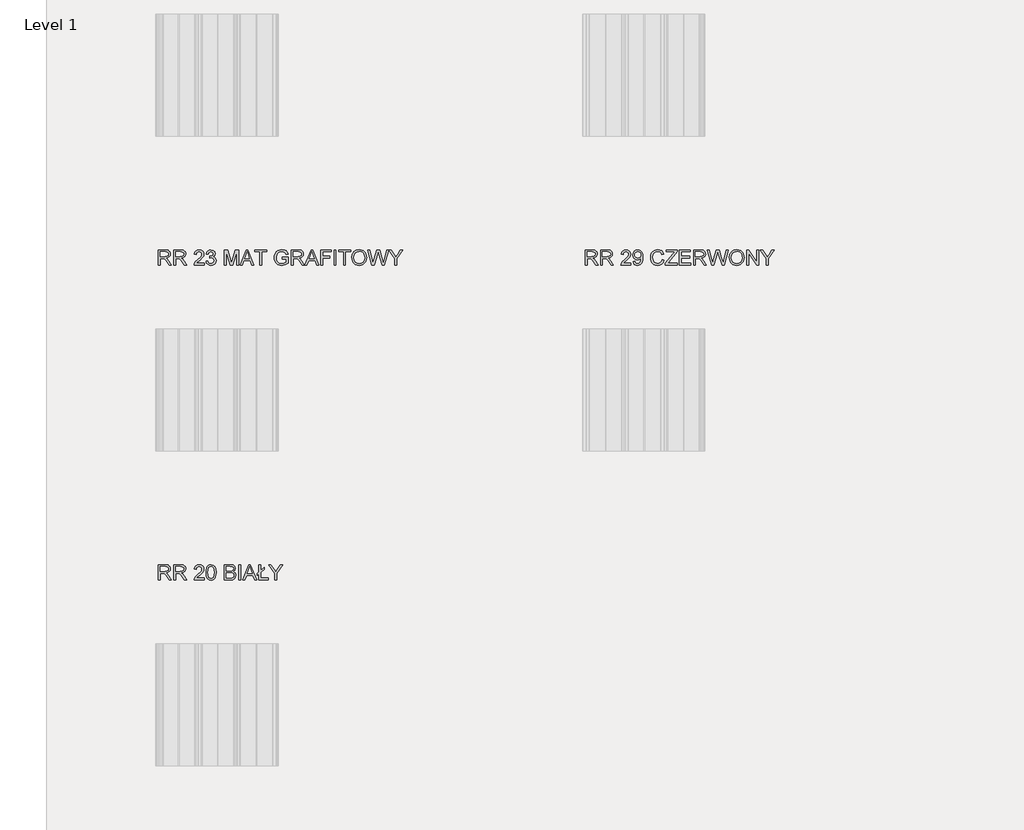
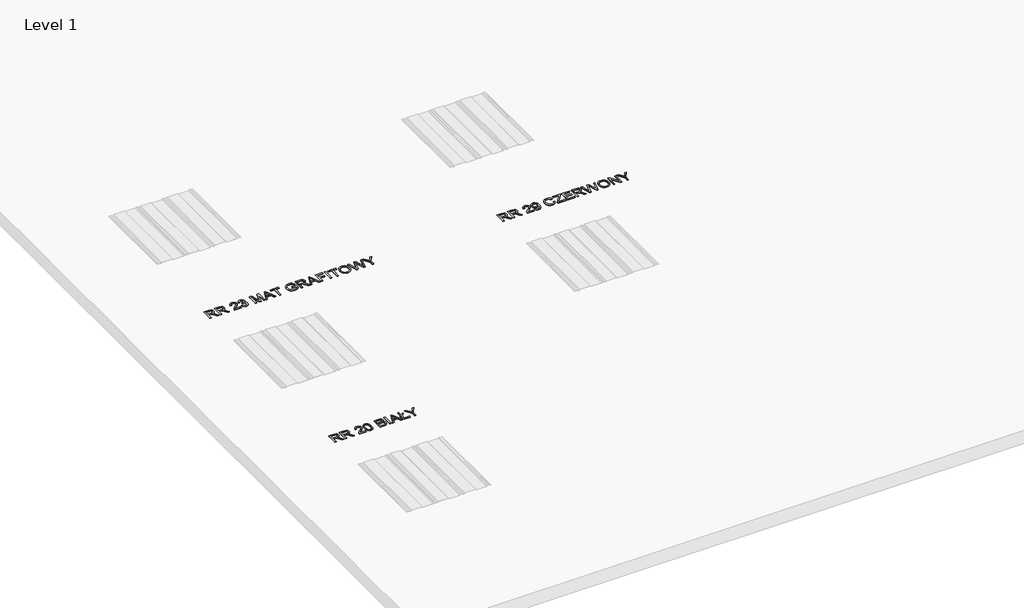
# One storey, part 5 of 9: 3 proxies.
"""IFC4 building model written with IfcOpenShell, lengths in millimetres."""

from ifc_helpers import new_model, si_unit, frame, origin, place, context, project, spatial, polyline, outline, extrude, element, save

model = new_model("IFC4")

# Units and contexts
model_context = context("Model", 3, world=origin())
ifc_project = project(units=[si_unit("LENGTHUNIT", "METRE", prefix="MILLI")], contexts=[model_context])

# Site, building, storey
site = spatial("IfcSite", under=ifc_project)
building = spatial("IfcBuilding", under=site)
storey = spatial("IfcBuildingStorey", under=building, Name="Level 1", Elevation=0.0)

# Proxies
placement = place(None, origin())
element("IfcBuildingElementProxy", 1, Name="150", ObjectType="150", at=placement, inside=storey, context=model_context, shape_type="SweptSolid", body=[
    extrude(outline(polyline([(-8736.4118342, -7835.6514112), (-8736.4118342, -7684.966946), (-8671.4806621, -7684.966946), (-8641.3327325, -7689.032042), (-8632.0529092, -7694.6606365), (-8624.8516192, -7703.416228), (-8620.2301016, -7714.2733454), (-8618.6895957, -7726.2065176), (-8621.2417771, -7741.0505561), (-8628.8983211, -7753.3562089), (-8641.8891541, -7762.3785148), (-8660.4442022, -7767.3725129), (-8649.7388361, -7775.4291286), (-8634.4717333, -7794.8165097), (-8609.3453931, -7835.6514112), (-8631.2343718, -7835.6514112), (-8650.8424821, -7804.4182298), (-8665.0059389, -7783.7432617), (-8674.9571469, -7773.9759947), (-8683.9150735, -7770.3891452), (-8694.8411687, -7769.7269577), (-8717.576276, -7769.7269577), (-8717.576276, -7835.6514112), (-8736.4118342, -7835.6514112)]), holes=[polyline([(-8717.576276, -7750.8913995), (-8675.4169994, -7750.8913995), (-8653.9142968, -7748.224255), (-8641.7006145, -7739.6893927), (-8637.5251539, -7726.9054934), (-8639.5163152, -7717.7176406), (-8645.4897991, -7710.3140154), (-8655.7675023, -7705.4303819), (-8670.6713217, -7703.8025041), (-8717.576276, -7703.8025041), (-8717.576276, -7750.8913995)])]), frame((0.0, 0.0, 600.0), z_axis=(0.0, 0.0, 1.0), x_axis=(1.0, 0.0, 0.0)), (0.0, 0.0, 1.0), 10.0),
    extrude(outline(polyline([(-8585.727369, -7835.6514112), (-8585.727369, -7684.966946), (-8520.7961968, -7684.966946), (-8490.6482673, -7689.032042), (-8481.368444, -7694.6606365), (-8474.1671539, -7703.416228), (-8469.5456364, -7714.2733454), (-8468.0051305, -7726.2065176), (-8470.5573119, -7741.0505561), (-8478.2138559, -7753.3562089), (-8491.2046888, -7762.3785148), (-8509.759737, -7767.3725129), (-8499.0543709, -7775.4291286), (-8483.7872681, -7794.8165097), (-8458.6609278, -7835.6514112), (-8480.5499066, -7835.6514112), (-8500.1580169, -7804.4182298), (-8514.3214737, -7783.7432617), (-8524.2726817, -7773.9759947), (-8533.2306083, -7770.3891452), (-8544.1567035, -7769.7269577), (-8566.8918108, -7769.7269577), (-8566.8918108, -7835.6514112), (-8585.727369, -7835.6514112)]), holes=[polyline([(-8566.8918108, -7750.8913995), (-8524.7325342, -7750.8913995), (-8503.2298316, -7748.224255), (-8491.0161493, -7739.6893927), (-8486.8406887, -7726.9054934), (-8488.83185, -7717.7176406), (-8494.8053339, -7710.3140154), (-8505.0830371, -7705.4303819), (-8519.9868564, -7703.8025041), (-8566.8918108, -7703.8025041), (-8566.8918108, -7750.8913995)])]), frame((0.0, 0.0, 600.0), z_axis=(0.0, 0.0, 1.0), x_axis=(1.0, 0.0, 0.0)), (0.0, 0.0, 1.0), 10.0),
    extrude(outline(polyline([(-8286.7128833, -7816.815853), (-8286.7128833, -7835.6514112), (-8385.5995636, -7835.6514112), (-8383.5762126, -7822.6651768), (-8372.1166885, -7802.6707903), (-8348.5170585, -7780.8369939), (-8316.0146842, -7749.4566597), (-8309.9308357, -7738.6409291), (-8307.9028862, -7728.119504), (-8309.8204711, -7718.6879293), (-8315.5732258, -7710.8474443), (-8324.4161893, -7705.5637392), (-8335.6044005, -7703.8025041), (-8347.3536317, -7705.5223524), (-8356.4817037, -7710.6818974), (-8362.3724141, -7718.8764689), (-8364.4095607, -7729.7013966), (-8383.2451188, -7727.3469518), (-8378.6787836, -7709.127596), (-8368.8057505, -7695.8194648), (-8354.1410545, -7687.6800757), (-8335.1997303, -7684.966946), (-8316.1204503, -7687.9835783), (-8301.4833454, -7697.0334754), (-8292.1713324, -7710.5531387), (-8289.0673281, -7726.9790698), (-8292.4150542, -7744.8397407), (-8303.5434846, -7763.3074168), (-8330.5276289, -7789.1143388), (-8352.1958784, -7807.2325271), (-8360.6939525, -7816.815853), (-8286.7128833, -7816.815853)])), frame((0.0, 0.0, 600.0), z_axis=(0.0, 0.0, 1.0), x_axis=(1.0, 0.0, 0.0)), (0.0, 0.0, 1.0), 10.0),
    extrude(outline(polyline([(-8267.8773251, -7761.5231892), (-8266.4931691, -7737.4039259), (-8262.3407011, -7718.168296), (-8255.4613078, -7703.5219941), (-8245.8963759, -7693.1707145), (-8233.5769276, -7687.0178881), (-8218.433985, -7684.966946), (-8196.4346417, -7689.8229883), (-8181.2411153, -7703.8208982), (-8172.4119474, -7726.1145471), (-8168.9906448, -7761.5231892), (-8170.3610053, -7785.5044967), (-8174.4720866, -7804.6941413), (-8181.3100932, -7819.3542388), (-8190.8612295, -7829.7469052), (-8203.2082689, -7835.9411183), (-8218.433985, -7838.005856), (-8238.0053071, -7834.4190065), (-8252.8677397, -7823.6584581), (-8264.1249288, -7798.1734329), (-8267.8773251, -7761.5231892)]), holes=[polyline([(-8249.041767, -7761.486401), (-8246.834475, -7791.1146971), (-8240.2125991, -7808.2625966), (-8230.3533616, -7816.4433725), (-8218.433985, -7819.1702978), (-8206.5146083, -7816.4341755), (-8196.6553709, -7808.2258084), (-8190.033495, -7791.0687119), (-8187.826203, -7761.486401), (-8189.9599186, -7732.5248909), (-8196.3610653, -7715.2436342), (-8206.2019087, -7706.6627866), (-8218.6547142, -7703.8025041), (-8230.4453321, -7706.3224958), (-8239.9182935, -7713.8824708), (-8246.7608986, -7732.2397823), (-8249.041767, -7761.486401)])]), frame((0.0, 0.0, 600.0), z_axis=(0.0, 0.0, 1.0), x_axis=(1.0, 0.0, 0.0)), (0.0, 0.0, 1.0), 10.0),
    extrude(outline(polyline([(-8086.5850779, -7835.6514112), (-8086.5850779, -7684.966946), (-8029.0851221, -7684.966946), (-8000.9237553, -7689.399924), (-7991.459991, -7695.02392), (-7984.2954892, -7703.0299519), (-7978.2806185, -7722.3069685), (-7983.338996, -7739.9101219), (-7998.6244929, -7753.2458443), (-7987.9513165, -7758.8192565), (-7980.0648462, -7767.2989365), (-7975.1950083, -7778.1238642), (-7973.571729, -7790.7330196), (-7978.004707, -7810.9849234), (-7988.9859846, -7825.4058976), (-8005.3751275, -7833.0578431), (-8029.5265805, -7835.6514112), (-8086.5850779, -7835.6514112)]), holes=[polyline([(-8067.7495198, -7746.18251), (-8033.3525532, -7746.18251), (-8013.2661963, -7744.5638292), (-8001.1812727, -7737.5924654), (-7997.1161767, -7725.3236008), (-8000.9053612, -7713.0363422), (-8011.7578801, -7705.7706728), (-8035.9645154, -7703.8025041), (-8067.7495198, -7703.8025041), (-8067.7495198, -7746.18251)]), polyline([(-8067.7495198, -7816.815853), (-8029.1219103, -7816.815853), (-8015.1423945, -7816.080089), (-8003.3149883, -7811.9782048), (-7995.4791018, -7803.6088894), (-7992.4072872, -7790.9169606), (-7996.0125307, -7776.2752572), (-8007.6927841, -7767.5380598), (-8030.9613203, -7765.0180681), (-8067.7495198, -7765.0180681), (-8067.7495198, -7816.815853)])]), frame((0.0, 0.0, 600.0), z_axis=(0.0, 0.0, 1.0), x_axis=(1.0, 0.0, 0.0)), (0.0, 0.0, 1.0), 10.0),
    extrude(outline(polyline([(-7945.3183918, -7835.6514112), (-7945.3183918, -7684.966946), (-7926.4828336, -7684.966946), (-7926.4828336, -7835.6514112), (-7945.3183918, -7835.6514112)])), frame((0.0, 0.0, 600.0), z_axis=(0.0, 0.0, 1.0), x_axis=(1.0, 0.0, 0.0)), (0.0, 0.0, 1.0), 10.0),
    extrude(outline(polyline([(-7906.3229003, -7835.6514112), (-7846.1741941, -7684.966946), (-7830.1345391, -7684.966946), (-7770.0226211, -7835.6514112), (-7789.925037, -7835.6514112), (-7807.1419144, -7788.5625158), (-7869.2403952, -7788.5625158), (-7886.4572725, -7835.6514112), (-7906.3229003, -7835.6514112)]), holes=[polyline([(-7862.3242137, -7769.7269577), (-7814.0213077, -7769.7269577), (-7827.6329415, -7732.6812407), (-7838.1911548, -7703.8025041), (-7847.5721457, -7729.4438792), (-7862.3242137, -7769.7269577)])]), frame((0.0, 0.0, 600.0), z_axis=(0.0, 0.0, 1.0), x_axis=(1.0, 0.0, 0.0)), (0.0, 0.0, 1.0), 10.0),
    extrude(outline(polyline([(-7747.5450312, -7776.0177398), (-7764.0261446, -7789.7397382), (-7764.0261446, -7770.90418), (-7747.5450312, -7757.1821816), (-7747.5450312, -7684.966946), (-7728.709473, -7684.966946), (-7728.709473, -7741.4736204), (-7693.3928015, -7712.0430608), (-7693.3928015, -7730.878619), (-7728.709473, -7760.3091786), (-7728.709473, -7816.815853), (-7653.3672404, -7816.815853), (-7653.3672404, -7835.6514112), (-7747.5450312, -7835.6514112), (-7747.5450312, -7776.0177398)])), frame((0.0, 0.0, 600.0), z_axis=(0.0, 0.0, 1.0), x_axis=(1.0, 0.0, 0.0)), (0.0, 0.0, 1.0), 10.0),
    extrude(outline(polyline([(-7592.1516764, -7835.6514112), (-7592.1516764, -7771.823885), (-7651.0127956, -7684.966946), (-7628.8295113, -7684.966946), (-7597.4123889, -7731.3568656), (-7581.3359457, -7755.048466), (-7565.1859262, -7729.6646084), (-7536.6750715, -7684.966946), (-7514.454999, -7684.966946), (-7573.3161183, -7771.823885), (-7573.3161183, -7835.6514112), (-7592.1516764, -7835.6514112)])), frame((0.0, 0.0, 600.0), z_axis=(0.0, 0.0, 1.0), x_axis=(1.0, 0.0, 0.0)), (0.0, 0.0, 1.0), 10.0),
])
element("IfcBuildingElementProxy", 2, Name="150 Blue", ObjectType="150 Blue", at=placement, inside=storey, context=model_context, shape_type="SweptSolid", body=[
    extrude(outline(polyline([(-8736.4118342, -4735.6514112), (-8736.4118342, -4584.966946), (-8671.4806621, -4584.966946), (-8641.3327325, -4589.032042), (-8632.0529092, -4594.6606365), (-8624.8516192, -4603.416228), (-8620.2301016, -4614.2733454), (-8618.6895957, -4626.2065176), (-8621.2417771, -4641.0505561), (-8628.8983211, -4653.3562089), (-8641.8891541, -4662.3785148), (-8660.4442022, -4667.3725129), (-8649.7388361, -4675.4291286), (-8634.4717333, -4694.8165097), (-8609.3453931, -4735.6514112), (-8631.2343718, -4735.6514112), (-8650.8424821, -4704.4182298), (-8665.0059389, -4683.7432617), (-8674.9571469, -4673.9759947), (-8683.9150735, -4670.3891452), (-8694.8411687, -4669.7269577), (-8717.576276, -4669.7269577), (-8717.576276, -4735.6514112), (-8736.4118342, -4735.6514112)]), holes=[polyline([(-8717.576276, -4650.8913995), (-8675.4169994, -4650.8913995), (-8653.9142968, -4648.224255), (-8641.7006145, -4639.6893927), (-8637.5251539, -4626.9054934), (-8639.5163152, -4617.7176406), (-8645.4897991, -4610.3140154), (-8655.7675023, -4605.4303819), (-8670.6713217, -4603.8025041), (-8717.576276, -4603.8025041), (-8717.576276, -4650.8913995)])]), frame((0.0, 0.0, 600.0), z_axis=(0.0, 0.0, 1.0), x_axis=(1.0, 0.0, 0.0)), (0.0, 0.0, 1.0), 10.0),
    extrude(outline(polyline([(-8585.727369, -4735.6514112), (-8585.727369, -4584.966946), (-8520.7961968, -4584.966946), (-8490.6482673, -4589.032042), (-8481.368444, -4594.6606365), (-8474.1671539, -4603.416228), (-8469.5456364, -4614.2733454), (-8468.0051305, -4626.2065176), (-8470.5573119, -4641.0505561), (-8478.2138559, -4653.3562089), (-8491.2046888, -4662.3785148), (-8509.759737, -4667.3725129), (-8499.0543709, -4675.4291286), (-8483.7872681, -4694.8165097), (-8458.6609278, -4735.6514112), (-8480.5499066, -4735.6514112), (-8500.1580169, -4704.4182298), (-8514.3214737, -4683.7432617), (-8524.2726817, -4673.9759947), (-8533.2306083, -4670.3891452), (-8544.1567035, -4669.7269577), (-8566.8918108, -4669.7269577), (-8566.8918108, -4735.6514112), (-8585.727369, -4735.6514112)]), holes=[polyline([(-8566.8918108, -4650.8913995), (-8524.7325342, -4650.8913995), (-8503.2298316, -4648.224255), (-8491.0161493, -4639.6893927), (-8486.8406887, -4626.9054934), (-8488.83185, -4617.7176406), (-8494.8053339, -4610.3140154), (-8505.0830371, -4605.4303819), (-8519.9868564, -4603.8025041), (-8566.8918108, -4603.8025041), (-8566.8918108, -4650.8913995)])]), frame((0.0, 0.0, 600.0), z_axis=(0.0, 0.0, 1.0), x_axis=(1.0, 0.0, 0.0)), (0.0, 0.0, 1.0), 10.0),
    extrude(outline(polyline([(-8286.7128833, -4716.815853), (-8286.7128833, -4735.6514112), (-8385.5995636, -4735.6514112), (-8383.5762126, -4722.6651768), (-8372.1166885, -4702.6707903), (-8348.5170585, -4680.8369939), (-8316.0146842, -4649.4566597), (-8309.9308357, -4638.6409291), (-8307.9028862, -4628.119504), (-8309.8204711, -4618.6879293), (-8315.5732258, -4610.8474443), (-8324.4161893, -4605.5637392), (-8335.6044005, -4603.8025041), (-8347.3536317, -4605.5223524), (-8356.4817037, -4610.6818974), (-8362.3724141, -4618.8764689), (-8364.4095607, -4629.7013966), (-8383.2451188, -4627.3469518), (-8378.6787836, -4609.127596), (-8368.8057505, -4595.8194648), (-8354.1410545, -4587.6800757), (-8335.1997303, -4584.966946), (-8316.1204503, -4587.9835783), (-8301.4833454, -4597.0334754), (-8292.1713324, -4610.5531387), (-8289.0673281, -4626.9790698), (-8292.4150542, -4644.8397407), (-8303.5434846, -4663.3074168), (-8330.5276289, -4689.1143388), (-8352.1958784, -4707.2325271), (-8360.6939525, -4716.815853), (-8286.7128833, -4716.815853)])), frame((0.0, 0.0, 600.0), z_axis=(0.0, 0.0, 1.0), x_axis=(1.0, 0.0, 0.0)), (0.0, 0.0, 1.0), 10.0),
    extrude(outline(polyline([(-8267.8773251, -4695.6258501), (-8249.041767, -4693.2714053), (-8244.8249196, -4705.1080085), (-8238.6491006, -4713.1002449), (-8230.2108074, -4717.6527846), (-8219.2065372, -4719.1702978), (-8206.2938792, -4717.0825675), (-8196.3242771, -4710.8193765), (-8189.9507215, -4701.4751738), (-8187.826203, -4690.1444084), (-8189.9323274, -4679.3884586), (-8196.2507007, -4670.6650567), (-8205.8156326, -4664.8847109), (-8217.6614328, -4662.9579289), (-8230.8683964, -4665.0180681), (-8228.7714691, -4646.18251), (-8225.7548367, -4646.4032392), (-8204.3808928, -4640.9953738), (-8197.2623762, -4634.1343746), (-8194.8895373, -4624.3671076), (-8196.6093856, -4616.232317), (-8201.7689306, -4609.6334337), (-8209.6416053, -4605.2602365), (-8219.5008428, -4603.8025041), (-8229.3784744, -4605.2740321), (-8237.4534841, -4609.688616), (-8243.3487931, -4617.0462559), (-8246.6873222, -4627.3469518), (-8265.5228804, -4624.992507), (-8259.9770593, -4608.0791323), (-8250.1086248, -4595.4515828), (-8236.6073556, -4587.5881052), (-8220.1630304, -4584.966946), (-8197.4463172, -4590.135688), (-8181.553815, -4604.2623566), (-8176.0539791, -4623.2634617), (-8181.2779035, -4640.6274918), (-8196.7289473, -4653.0986915), (-8184.9383293, -4657.8627633), (-8176.2011319, -4665.9745613), (-8170.7932666, -4676.9926271), (-8168.9906448, -4690.4755022), (-8172.5958884, -4708.8328137), (-8183.4116191, -4724.1734929), (-8199.7363826, -4734.5477652), (-8219.8687248, -4738.005856), (-8238.0788835, -4735.0536029), (-8252.9045279, -4726.1968439), (-8263.2144209, -4712.6495894), (-8267.8773251, -4695.6258501)])), frame((0.0, 0.0, 600.0), z_axis=(0.0, 0.0, 1.0), x_axis=(1.0, 0.0, 0.0)), (0.0, 0.0, 1.0), 10.0),
    extrude(outline(polyline([(-8086.5850779, -4735.6514112), (-8086.5850779, -4584.966946), (-8054.2850387, -4584.966946), (-8023.3829512, -4691.174478), (-8017.1289572, -4713.3577623), (-8010.3967167, -4689.335068), (-7980.0832403, -4584.966946), (-7947.6728365, -4584.966946), (-7947.6728365, -4735.6514112), (-7966.5083947, -4735.6514112), (-7966.5083947, -4603.8025041), (-8004.363452, -4735.6514112), (-8029.8576743, -4735.6514112), (-8067.7495198, -4603.8025041), (-8067.7495198, -4735.6514112), (-8086.5850779, -4735.6514112)])), frame((0.0, 0.0, 600.0), z_axis=(0.0, 0.0, 1.0), x_axis=(1.0, 0.0, 0.0)), (0.0, 0.0, 1.0), 10.0),
    extrude(outline(polyline([(-7932.2217927, -4735.6514112), (-7872.0730865, -4584.966946), (-7856.0334315, -4584.966946), (-7795.9215135, -4735.6514112), (-7815.8239295, -4735.6514112), (-7833.0408068, -4688.5625158), (-7895.1392876, -4688.5625158), (-7912.356165, -4735.6514112), (-7932.2217927, -4735.6514112)]), holes=[polyline([(-7888.2231061, -4669.7269577), (-7839.9202002, -4669.7269577), (-7853.531834, -4632.6812407), (-7864.0900472, -4603.8025041), (-7873.4710381, -4629.4438792), (-7888.2231061, -4669.7269577)])]), frame((0.0, 0.0, 600.0), z_axis=(0.0, 0.0, 1.0), x_axis=(1.0, 0.0, 0.0)), (0.0, 0.0, 1.0), 10.0),
    extrude(outline(polyline([(-7738.1272521, -4735.6514112), (-7738.1272521, -4603.8025041), (-7787.5705922, -4603.8025041), (-7787.5705922, -4584.966946), (-7669.8483538, -4584.966946), (-7669.8483538, -4603.8025041), (-7719.2916939, -4603.8025041), (-7719.2916939, -4735.6514112), (-7738.1272521, -4735.6514112)])), frame((0.0, 0.0, 600.0), z_axis=(0.0, 0.0, 1.0), x_axis=(1.0, 0.0, 0.0)), (0.0, 0.0, 1.0), 10.0),
    extrude(outline(polyline([(-7519.1638886, -4676.790292), (-7519.1638886, -4657.9547338), (-7457.9483246, -4657.9547338), (-7457.9483246, -4714.2774673), (-7488.1698305, -4732.0461676), (-7520.1203817, -4738.005856), (-7541.2506038, -4735.6376156), (-7560.3482779, -4728.5328946), (-7576.213189, -4716.9400132), (-7587.645122, -4701.1072918), (-7594.5567049, -4682.1153838), (-7596.8605659, -4661.0449426), (-7594.565902, -4639.82275), (-7587.6819102, -4620.0812824), (-7576.493699, -4603.5219941), (-7561.286377, -4591.8463393), (-7542.7635186, -4584.9209607), (-7521.6286979, -4582.6125012), (-7492.1613501, -4587.9651842), (-7480.4121189, -4594.3663309), (-7471.5047761, -4602.864405), (-7460.1188283, -4627.7884102), (-7477.4828585, -4632.6812407), (-7486.0729031, -4615.2620283), (-7500.7513947, -4605.2188498), (-7521.9230035, -4601.4480593), (-7546.0376683, -4605.5131554), (-7562.4452053, -4616.1817333), (-7572.1388959, -4630.694678), (-7578.0250078, -4660.2723904), (-7576.2545757, -4678.2848126), (-7570.9432794, -4693.1058584), (-7562.2520672, -4704.6297619), (-7550.3418877, -4712.750757), (-7536.4037586, -4717.5654126), (-7521.6286979, -4719.1702978), (-7495.8585642, -4714.3326496), (-7476.7838827, -4704.0135596), (-7476.7838827, -4676.790292), (-7519.1638886, -4676.790292)])), frame((0.0, 0.0, 600.0), z_axis=(0.0, 0.0, 1.0), x_axis=(1.0, 0.0, 0.0)), (0.0, 0.0, 1.0), 10.0),
    extrude(outline(polyline([(-7427.3405426, -4735.6514112), (-7427.3405426, -4584.966946), (-7362.4093704, -4584.966946), (-7332.2614409, -4589.032042), (-7322.9816176, -4594.6606365), (-7315.7803275, -4603.416228), (-7311.15881, -4614.2733454), (-7309.6183041, -4626.2065176), (-7312.1704855, -4641.0505561), (-7319.8270295, -4653.3562089), (-7332.8178624, -4662.3785148), (-7351.3729106, -4667.3725129), (-7340.6675445, -4675.4291286), (-7325.4004417, -4694.8165097), (-7300.2741014, -4735.6514112), (-7322.1630801, -4735.6514112), (-7341.7711905, -4704.4182298), (-7355.9346473, -4683.7432617), (-7365.8858553, -4673.9759947), (-7374.8437819, -4670.3891452), (-7385.7698771, -4669.7269577), (-7408.5049844, -4669.7269577), (-7408.5049844, -4735.6514112), (-7427.3405426, -4735.6514112)]), holes=[polyline([(-7408.5049844, -4650.8913995), (-7366.3457078, -4650.8913995), (-7344.8430051, -4648.224255), (-7332.6293229, -4639.6893927), (-7328.4538623, -4626.9054934), (-7330.4450236, -4617.7176406), (-7336.4185075, -4610.3140154), (-7346.6962107, -4605.4303819), (-7361.60003, -4603.8025041), (-7408.5049844, -4603.8025041), (-7408.5049844, -4650.8913995)])]), frame((0.0, 0.0, 600.0), z_axis=(0.0, 0.0, 1.0), x_axis=(1.0, 0.0, 0.0)), (0.0, 0.0, 1.0), 10.0),
    extrude(outline(polyline([(-7294.1672603, -4735.6514112), (-7234.0185541, -4584.966946), (-7217.9788991, -4584.966946), (-7157.8669811, -4735.6514112), (-7177.769397, -4735.6514112), (-7194.9862744, -4688.5625158), (-7257.0847552, -4688.5625158), (-7274.3016326, -4735.6514112), (-7294.1672603, -4735.6514112)]), holes=[polyline([(-7250.1685737, -4669.7269577), (-7201.8656677, -4669.7269577), (-7215.4773015, -4632.6812407), (-7226.0355148, -4603.8025041), (-7235.4165057, -4629.4438792), (-7250.1685737, -4669.7269577)])]), frame((0.0, 0.0, 600.0), z_axis=(0.0, 0.0, 1.0), x_axis=(1.0, 0.0, 0.0)), (0.0, 0.0, 1.0), 10.0),
    extrude(outline(polyline([(-7137.743836, -4735.6514112), (-7137.743836, -4584.966946), (-7036.5027109, -4584.966946), (-7036.5027109, -4603.8025041), (-7118.9082778, -4603.8025041), (-7118.9082778, -4648.5369547), (-7048.2749347, -4648.5369547), (-7048.2749347, -4667.3725129), (-7118.9082778, -4667.3725129), (-7118.9082778, -4735.6514112), (-7137.743836, -4735.6514112)])), frame((0.0, 0.0, 600.0), z_axis=(0.0, 0.0, 1.0), x_axis=(1.0, 0.0, 0.0)), (0.0, 0.0, 1.0), 10.0),
    extrude(outline(polyline([(-7008.2493737, -4735.6514112), (-7008.2493737, -4584.966946), (-6989.4138155, -4584.966946), (-6989.4138155, -4735.6514112), (-7008.2493737, -4735.6514112)])), frame((0.0, 0.0, 600.0), z_axis=(0.0, 0.0, 1.0), x_axis=(1.0, 0.0, 0.0)), (0.0, 0.0, 1.0), 10.0),
    extrude(outline(polyline([(-6914.0715829, -4735.6514112), (-6914.0715829, -4603.8025041), (-6963.514923, -4603.8025041), (-6963.514923, -4584.966946), (-6845.7926846, -4584.966946), (-6845.7926846, -4603.8025041), (-6895.2360247, -4603.8025041), (-6895.2360247, -4735.6514112), (-6914.0715829, -4735.6514112)])), frame((0.0, 0.0, 600.0), z_axis=(0.0, 0.0, 1.0), x_axis=(1.0, 0.0, 0.0)), (0.0, 0.0, 1.0), 10.0),
    extrude(outline(polyline([(-6831.666016, -4662.2957413), (-6826.6444267, -4628.9748296), (-6820.3674402, -4615.356298), (-6811.579659, -4603.7657159), (-6788.5778373, -4587.9008049), (-6759.7450859, -4582.6125012), (-6739.9806257, -4585.0957047), (-6722.2579106, -4592.5453151), (-6707.5426308, -4604.4371006), (-6696.8004765, -4620.2468293), (-6690.2337829, -4639.2111462), (-6688.0448851, -4660.566696), (-6690.3487461, -4682.2073543), (-6697.260329, -4701.4383856), (-6708.3979564, -4717.2757055), (-6723.3799507, -4728.7352297), (-6740.9509145, -4735.6881994), (-6759.8554505, -4738.005856), (-6779.9234134, -4735.4444776), (-6797.747296, -4727.7603424), (-6812.4257876, -4715.6478277), (-6823.0575773, -4699.8013108), (-6829.5139063, -4681.5681594), (-6831.666016, -4662.2957413)]), holes=[polyline([(-6812.8304578, -4662.4796823), (-6809.0642659, -4686.0517212), (-6797.7656901, -4704.0135596), (-6780.7833375, -4715.3811133), (-6759.9658151, -4719.1702978), (-6738.8447901, -4715.3443251), (-6721.8348463, -4703.8664068), (-6710.619044, -4685.3527454), (-6706.8804432, -4660.4195432), (-6708.4807299, -4643.7452917), (-6713.2815899, -4629.3335146), (-6721.1588631, -4617.5474952), (-6731.9883894, -4608.750517), (-6745.0527987, -4603.2736737), (-6759.6347213, -4601.4480593), (-6779.8958222, -4604.9659309), (-6797.1218966, -4615.5195457), (-6808.9033175, -4634.295323), (-6812.8304578, -4662.4796823)])]), frame((0.0, 0.0, 600.0), z_axis=(0.0, 0.0, 1.0), x_axis=(1.0, 0.0, 0.0)), (0.0, 0.0, 1.0), 10.0),
    extrude(outline(polyline([(-6635.1802424, -4735.6514112), (-6676.2726612, -4584.966946), (-6656.8484919, -4584.966946), (-6633.0097386, -4684.0007791), (-6625.6520987, -4714.5717729), (-6617.779424, -4687.5324462), (-6587.907406, -4584.966946), (-6559.9115861, -4584.966946), (-6538.2065484, -4659.3158972), (-6522.0565288, -4714.5717729), (-6514.9196181, -4684.8836959), (-6490.8969238, -4584.966946), (-6471.4359663, -4584.966946), (-6512.491597, -4735.6514112), (-6532.6515303, -4735.6514112), (-6568.8143304, -4619.4007007), (-6573.8543138, -4603.1771047), (-6579.5196965, -4622.7116387), (-6612.445135, -4735.6514112), (-6635.1802424, -4735.6514112)])), frame((0.0, 0.0, 600.0), z_axis=(0.0, 0.0, 1.0), x_axis=(1.0, 0.0, 0.0)), (0.0, 0.0, 1.0), 10.0),
    extrude(outline(polyline([(-6410.2204023, -4735.6514112), (-6410.2204023, -4671.823885), (-6469.0815215, -4584.966946), (-6446.8982372, -4584.966946), (-6415.4811148, -4631.3568656), (-6399.4046716, -4655.048466), (-6383.2546521, -4629.6646084), (-6354.7437974, -4584.966946), (-6332.5237249, -4584.966946), (-6391.3848441, -4671.823885), (-6391.3848441, -4735.6514112), (-6410.2204023, -4735.6514112)])), frame((0.0, 0.0, 600.0), z_axis=(0.0, 0.0, 1.0), x_axis=(1.0, 0.0, 0.0)), (0.0, 0.0, 1.0), 10.0),
])
element("IfcBuildingElementProxy", 3, Name="150 Blue", ObjectType="150 Blue", at=placement, inside=storey, context=model_context, shape_type="SweptSolid", body=[
    extrude(outline(polyline([(-4536.4118342, -4735.6514112), (-4536.4118342, -4584.966946), (-4471.4806621, -4584.966946), (-4441.3327325, -4589.032042), (-4432.0529092, -4594.6606365), (-4424.8516192, -4603.416228), (-4420.2301016, -4614.2733454), (-4418.6895957, -4626.2065176), (-4421.2417771, -4641.0505561), (-4428.8983211, -4653.3562089), (-4441.8891541, -4662.3785148), (-4460.4442022, -4667.3725129), (-4449.7388361, -4675.4291286), (-4434.4717333, -4694.8165097), (-4409.3453931, -4735.6514112), (-4431.2343718, -4735.6514112), (-4450.8424821, -4704.4182298), (-4465.0059389, -4683.7432617), (-4474.9571469, -4673.9759947), (-4483.9150735, -4670.3891452), (-4494.8411687, -4669.7269577), (-4517.576276, -4669.7269577), (-4517.576276, -4735.6514112), (-4536.4118342, -4735.6514112)]), holes=[polyline([(-4517.576276, -4650.8913995), (-4475.4169994, -4650.8913995), (-4453.9142968, -4648.224255), (-4441.7006145, -4639.6893927), (-4437.5251539, -4626.9054934), (-4439.5163152, -4617.7176406), (-4445.4897991, -4610.3140154), (-4455.7675023, -4605.4303819), (-4470.6713217, -4603.8025041), (-4517.576276, -4603.8025041), (-4517.576276, -4650.8913995)])]), frame((0.0, 0.0, 600.0), z_axis=(0.0, 0.0, 1.0), x_axis=(1.0, 0.0, 0.0)), (0.0, 0.0, 1.0), 10.0),
    extrude(outline(polyline([(-4385.727369, -4735.6514112), (-4385.727369, -4584.966946), (-4320.7961968, -4584.966946), (-4290.6482673, -4589.032042), (-4281.368444, -4594.6606365), (-4274.1671539, -4603.416228), (-4269.5456364, -4614.2733454), (-4268.0051305, -4626.2065176), (-4270.5573119, -4641.0505561), (-4278.2138559, -4653.3562089), (-4291.2046888, -4662.3785148), (-4309.759737, -4667.3725129), (-4299.0543709, -4675.4291286), (-4283.7872681, -4694.8165097), (-4258.6609278, -4735.6514112), (-4280.5499066, -4735.6514112), (-4300.1580169, -4704.4182298), (-4314.3214737, -4683.7432617), (-4324.2726817, -4673.9759947), (-4333.2306083, -4670.3891452), (-4344.1567035, -4669.7269577), (-4366.8918108, -4669.7269577), (-4366.8918108, -4735.6514112), (-4385.727369, -4735.6514112)]), holes=[polyline([(-4366.8918108, -4650.8913995), (-4324.7325342, -4650.8913995), (-4303.2298316, -4648.224255), (-4291.0161493, -4639.6893927), (-4286.8406887, -4626.9054934), (-4288.83185, -4617.7176406), (-4294.8053339, -4610.3140154), (-4305.0830371, -4605.4303819), (-4319.9868564, -4603.8025041), (-4366.8918108, -4603.8025041), (-4366.8918108, -4650.8913995)])]), frame((0.0, 0.0, 600.0), z_axis=(0.0, 0.0, 1.0), x_axis=(1.0, 0.0, 0.0)), (0.0, 0.0, 1.0), 10.0),
    extrude(outline(polyline([(-4086.7128833, -4716.815853), (-4086.7128833, -4735.6514112), (-4185.5995636, -4735.6514112), (-4183.5762126, -4722.6651768), (-4172.1166885, -4702.6707903), (-4148.5170585, -4680.8369939), (-4116.0146842, -4649.4566597), (-4109.9308357, -4638.6409291), (-4107.9028862, -4628.119504), (-4109.8204711, -4618.6879293), (-4115.5732258, -4610.8474443), (-4124.4161893, -4605.5637392), (-4135.6044005, -4603.8025041), (-4147.3536317, -4605.5223524), (-4156.4817037, -4610.6818974), (-4162.3724141, -4618.8764689), (-4164.4095607, -4629.7013966), (-4183.2451188, -4627.3469518), (-4178.6787836, -4609.127596), (-4168.8057505, -4595.8194648), (-4154.1410545, -4587.6800757), (-4135.1997303, -4584.966946), (-4116.1204503, -4587.9835783), (-4101.4833454, -4597.0334754), (-4092.1713324, -4610.5531387), (-4089.0673281, -4626.9790698), (-4092.4150542, -4644.8397407), (-4103.5434846, -4663.3074168), (-4130.5276289, -4689.1143388), (-4152.1958784, -4707.2325271), (-4160.6939525, -4716.815853), (-4086.7128833, -4716.815853)])), frame((0.0, 0.0, 600.0), z_axis=(0.0, 0.0, 1.0), x_axis=(1.0, 0.0, 0.0)), (0.0, 0.0, 1.0), 10.0),
    extrude(outline(polyline([(-4065.5228804, -4697.9802949), (-4046.6873222, -4695.6258501), (-4043.4683548, -4706.3174206), (-4038.2260363, -4713.5968856), (-4031.0891256, -4717.7769447), (-4022.1863813, -4719.1702978), (-4006.9376726, -4715.5834484), (-3996.6001886, -4706.0001224), (-3990.4381652, -4689.6293736), (-3987.7158384, -4667.7771831), (-3987.826203, -4664.0983631), (-4002.8909707, -4678.3721845), (-4023.5475447, -4683.8536263), (-4040.7230354, -4680.5059001), (-4055.0198494, -4670.4627216), (-4064.6629562, -4654.9472985), (-4067.8773251, -4635.1828383), (-4064.5066064, -4614.7653876), (-4054.39445, -4598.7625208), (-4039.2055221, -4588.4158397), (-4020.6044888, -4584.966946), (-4006.5559951, -4586.9351146), (-3993.7674972, -4592.8396207), (-3983.0713282, -4602.3861584), (-3975.2998211, -4615.2804224), (-3970.5679389, -4633.104305), (-3968.9906448, -4657.439699), (-3970.5633404, -4683.2420225), (-3975.281427, -4703.1858251), (-3983.1035179, -4718.1724179), (-3993.9882264, -4729.1031117), (-4007.466503, -4735.7801699), (-4023.0692981, -4738.005856), (-4039.1733325, -4735.3800982), (-4052.0216112, -4727.502825), (-4061.0071289, -4714.870677), (-4065.5228804, -4697.9802949)]), holes=[polyline([(-3987.826203, -4634.7413799), (-3989.858751, -4621.9758747), (-3995.9563951, -4612.1534254), (-4005.4201594, -4605.8902344), (-4017.5510682, -4603.8025041), (-4030.1326324, -4606.0511828), (-4040.2125991, -4612.7972189), (-4046.834475, -4623.1209074), (-4049.041767, -4636.1025433), (-4046.9540367, -4647.7414099), (-4040.6908457, -4656.9798465), (-4030.8591994, -4663.0085127), (-4018.066103, -4665.0180681), (-4006.0317632, -4663.0085127), (-3996.3426712, -4656.9798465), (-3989.95532, -4647.4011191), (-3987.826203, -4634.7413799)])]), frame((0.0, 0.0, 600.0), z_axis=(0.0, 0.0, 1.0), x_axis=(1.0, 0.0, 0.0)), (0.0, 0.0, 1.0), 10.0),
    extrude(outline(polyline([(-3780.6350633, -4682.0877927), (-3761.7995052, -4686.943835), (-3770.4907173, -4708.8925946), (-3784.1299423, -4724.927651), (-3802.0457954, -4734.7363047), (-3823.5668921, -4738.005856), (-3845.4144841, -4735.5318495), (-3862.7647187, -4728.1098303), (-3876.0636529, -4715.9973156), (-3885.7573434, -4699.4518229), (-3891.675645, -4680.0000624), (-3893.6484122, -4659.1687444), (-3891.4181276, -4637.1969922), (-3884.7272738, -4618.2234783), (-3873.9253388, -4602.8506095), (-3859.3618103, -4591.6807924), (-3842.0897506, -4584.879574), (-3823.162222, -4582.6125012), (-3802.5102464, -4585.5463601), (-3785.4359233, -4594.3479368), (-3772.4726815, -4608.4746055), (-3764.1539499, -4627.38374), (-3782.9895081, -4631.8719003), (-3789.5194135, -4618.1361064), (-3798.4405519, -4608.7137288), (-3809.8632878, -4603.2644767), (-3823.8979859, -4601.4480593), (-3840.0755967, -4603.4622133), (-3853.3653338, -4609.504675), (-3863.449899, -4618.9408482), (-3870.011994, -4631.1361364), (-3874.8128541, -4659.1319562), (-3873.3919099, -4676.5327746), (-3869.1290773, -4691.5791482), (-3861.8634078, -4703.6962614), (-3851.4339533, -4712.3092986), (-3838.930564, -4717.455048), (-3825.4430903, -4719.1702978), (-3809.7207336, -4716.8342471), (-3796.619536, -4709.8260951), (-3786.7281089, -4698.2194182), (-3780.6350633, -4682.0877927)])), frame((0.0, 0.0, 600.0), z_axis=(0.0, 0.0, 1.0), x_axis=(1.0, 0.0, 0.0)), (0.0, 0.0, 1.0), 10.0),
    extrude(outline(polyline([(-3747.6728365, -4735.6514112), (-3747.6728365, -4716.1168772), (-3670.6383468, -4621.7183573), (-3655.9966433, -4603.8025041), (-3738.2550575, -4603.8025041), (-3738.2550575, -4584.966946), (-3632.3050429, -4584.966946), (-3632.3050429, -4603.8025041), (-3716.6235962, -4707.1037684), (-3724.5698472, -4716.815853), (-3629.9505981, -4716.815853), (-3629.9505981, -4735.6514112), (-3747.6728365, -4735.6514112)])), frame((0.0, 0.0, 600.0), z_axis=(0.0, 0.0, 1.0), x_axis=(1.0, 0.0, 0.0)), (0.0, 0.0, 1.0), 10.0),
    extrude(outline(polyline([(-3608.7605952, -4735.6514112), (-3608.7605952, -4584.966946), (-3500.4561358, -4584.966946), (-3500.4561358, -4603.8025041), (-3589.925037, -4603.8025041), (-3589.925037, -4648.5369547), (-3505.1650253, -4648.5369547), (-3505.1650253, -4667.3725129), (-3589.925037, -4667.3725129), (-3589.925037, -4716.815853), (-3498.101691, -4716.815853), (-3498.101691, -4735.6514112), (-3608.7605952, -4735.6514112)])), frame((0.0, 0.0, 600.0), z_axis=(0.0, 0.0, 1.0), x_axis=(1.0, 0.0, 0.0)), (0.0, 0.0, 1.0), 10.0),
    extrude(outline(polyline([(-3469.8483538, -4735.6514112), (-3469.8483538, -4584.966946), (-3404.9171816, -4584.966946), (-3374.7692521, -4589.032042), (-3365.4894288, -4594.6606365), (-3358.2881387, -4603.416228), (-3353.6666212, -4614.2733454), (-3352.1261153, -4626.2065176), (-3354.6782967, -4641.0505561), (-3362.3348407, -4653.3562089), (-3375.3256737, -4662.3785148), (-3393.8807218, -4667.3725129), (-3383.1753557, -4675.4291286), (-3367.9082529, -4694.8165097), (-3342.7819127, -4735.6514112), (-3364.6708914, -4735.6514112), (-3384.2790017, -4704.4182298), (-3398.4424585, -4683.7432617), (-3408.3936665, -4673.9759947), (-3417.3515931, -4670.3891452), (-3428.2776883, -4669.7269577), (-3451.0127956, -4669.7269577), (-3451.0127956, -4735.6514112), (-3469.8483538, -4735.6514112)]), holes=[polyline([(-3451.0127956, -4650.8913995), (-3408.853519, -4650.8913995), (-3387.3508164, -4648.224255), (-3375.1371341, -4639.6893927), (-3370.9616735, -4626.9054934), (-3372.9528348, -4617.7176406), (-3378.9263187, -4610.3140154), (-3389.2040219, -4605.4303819), (-3404.1078412, -4603.8025041), (-3451.0127956, -4603.8025041), (-3451.0127956, -4650.8913995)])]), frame((0.0, 0.0, 600.0), z_axis=(0.0, 0.0, 1.0), x_axis=(1.0, 0.0, 0.0)), (0.0, 0.0, 1.0), 10.0),
    extrude(outline(polyline([(-3292.1981383, -4735.6514112), (-3333.2905572, -4584.966946), (-3313.8663878, -4584.966946), (-3290.0276345, -4684.0007791), (-3282.6699946, -4714.5717729), (-3274.7973199, -4687.5324462), (-3244.9253019, -4584.966946), (-3216.9294821, -4584.966946), (-3195.2244444, -4659.3158972), (-3179.0744248, -4714.5717729), (-3171.9375141, -4684.8836959), (-3147.9148198, -4584.966946), (-3128.4538623, -4584.966946), (-3169.5094929, -4735.6514112), (-3189.6694263, -4735.6514112), (-3225.8322264, -4619.4007007), (-3230.8722097, -4603.1771047), (-3236.5375924, -4622.7116387), (-3269.463031, -4735.6514112), (-3292.1981383, -4735.6514112)])), frame((0.0, 0.0, 600.0), z_axis=(0.0, 0.0, 1.0), x_axis=(1.0, 0.0, 0.0)), (0.0, 0.0, 1.0), 10.0),
    extrude(outline(polyline([(-3116.6816384, -4662.2957413), (-3111.6600492, -4628.9748296), (-3105.3830626, -4615.356298), (-3096.5952815, -4603.7657159), (-3073.5934597, -4587.9008049), (-3044.7607084, -4582.6125012), (-3024.9962482, -4585.0957047), (-3007.2735331, -4592.5453151), (-2992.5582532, -4604.4371006), (-2981.816099, -4620.2468293), (-2975.2494054, -4639.2111462), (-2973.0605075, -4660.566696), (-2975.3643685, -4682.2073543), (-2982.2759515, -4701.4383856), (-2993.4135789, -4717.2757055), (-3008.3955731, -4728.7352297), (-3025.9665369, -4735.6881994), (-3044.871073, -4738.005856), (-3064.9390358, -4735.4444776), (-3082.7629185, -4727.7603424), (-3097.4414101, -4715.6478277), (-3108.0731997, -4699.8013108), (-3114.5295287, -4681.5681594), (-3116.6816384, -4662.2957413)]), holes=[polyline([(-3097.8460803, -4662.4796823), (-3094.0798883, -4686.0517212), (-3082.7813126, -4704.0135596), (-3065.79896, -4715.3811133), (-3044.9814376, -4719.1702978), (-3023.8604125, -4715.3443251), (-3006.8504688, -4703.8664068), (-2995.6346664, -4685.3527454), (-2991.8960657, -4660.4195432), (-2993.4963523, -4643.7452917), (-2998.2972124, -4629.3335146), (-3006.1744856, -4617.5474952), (-3017.0040118, -4608.750517), (-3030.0684212, -4603.2736737), (-3044.6503438, -4601.4480593), (-3064.9114446, -4604.9659309), (-3082.1375191, -4615.5195457), (-3093.91894, -4634.295323), (-3097.8460803, -4662.4796823)])]), frame((0.0, 0.0, 600.0), z_axis=(0.0, 0.0, 1.0), x_axis=(1.0, 0.0, 0.0)), (0.0, 0.0, 1.0), 10.0),
    extrude(outline(polyline([(-2947.161615, -4735.6514112), (-2947.161615, -4584.966946), (-2927.0016817, -4584.966946), (-2848.2749347, -4704.3446534), (-2848.2749347, -4584.966946), (-2829.4393766, -4584.966946), (-2829.4393766, -4735.6514112), (-2849.5993099, -4735.6514112), (-2928.3260569, -4616.2369156), (-2928.3260569, -4735.6514112), (-2947.161615, -4735.6514112)])), frame((0.0, 0.0, 600.0), z_axis=(0.0, 0.0, 1.0), x_axis=(1.0, 0.0, 0.0)), (0.0, 0.0, 1.0), 10.0),
    extrude(outline(polyline([(-2754.097144, -4735.6514112), (-2754.097144, -4671.823885), (-2812.9582632, -4584.966946), (-2790.7749789, -4584.966946), (-2759.3578565, -4631.3568656), (-2743.2814133, -4655.048466), (-2727.1313937, -4629.6646084), (-2698.6205391, -4584.966946), (-2676.4004666, -4584.966946), (-2735.2615858, -4671.823885), (-2735.2615858, -4735.6514112), (-2754.097144, -4735.6514112)])), frame((0.0, 0.0, 600.0), z_axis=(0.0, 0.0, 1.0), x_axis=(1.0, 0.0, 0.0)), (0.0, 0.0, 1.0), 10.0),
])

save(model, "model.ifc")
